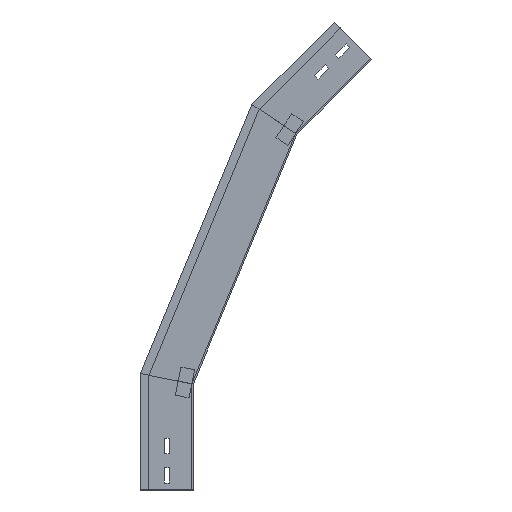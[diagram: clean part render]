
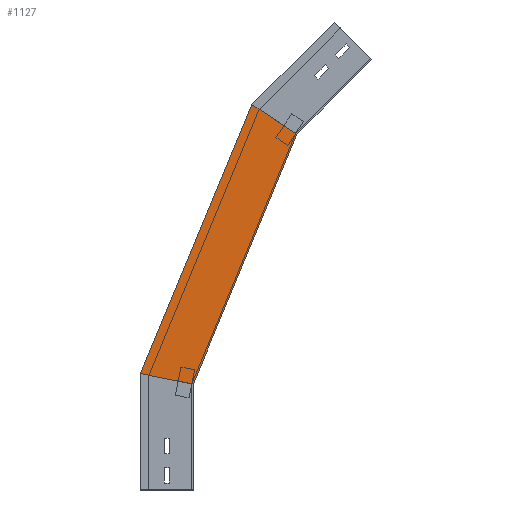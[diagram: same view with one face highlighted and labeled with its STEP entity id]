
A CAD part, left-side view. The second image highlights one B-rep face of the part: STEP entity #1127.
In plain terms, the highlighted planar face has unit normal (-1, 0, 0) as drawn and (1, 0, 0) by its records, which use the part's own axes.
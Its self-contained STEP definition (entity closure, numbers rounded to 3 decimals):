
#69 = LINE ( 'NONE', #95, #1461 ) ;
#95 = CARTESIAN_POINT ( 'NONE',  ( 0., -211.373, 460.544 ) ) ;
#109 = EDGE_CURVE ( 'NONE', #833, #999, #810, .T. ) ;
#128 = CARTESIAN_POINT ( 'NONE',  ( 0., 6.318, 134.746 ) ) ;
#182 = CARTESIAN_POINT ( 'NONE',  ( 0., 75., 164.918 ) ) ;
#209 = CARTESIAN_POINT ( 'NONE',  ( 0., -146.568, 503.846 ) ) ;
#310 = DIRECTION ( 'NONE',  ( 0., -0.831, -0.556 ) ) ;
#329 = EDGE_CURVE ( 'NONE', #1350, #1359, #546, .T. ) ;
#339 = ORIENTED_EDGE ( 'NONE', *, *, #109, .F. ) ;
#348 = ORIENTED_EDGE ( 'NONE', *, *, #329, .T. ) ;
#364 = CARTESIAN_POINT ( 'NONE',  ( 0., -28.701, 144.291 ) ) ;
#469 = ORIENTED_EDGE ( 'NONE', *, *, #1440, .T. ) ;
#492 = FACE_OUTER_BOUND ( 'NONE', #1231, .T. ) ;
#498 = CARTESIAN_POINT ( 'NONE',  ( 0., 0., 150. ) ) ;
#546 = LINE ( 'NONE', #1445, #1195 ) ;
#583 = DIRECTION ( 'NONE',  ( 0., -0.981, -0.195 ) ) ;
#600 = DIRECTION ( 'NONE',  ( 0., -0.383, 0.924 ) ) ;
#638 = AXIS2_PLACEMENT_3D ( 'NONE', #1043, #1500, #1258 ) ;
#810 = LINE ( 'NONE', #128, #1099 ) ;
#818 = LINE ( 'NONE', #364, #876 ) ;
#833 = VERTEX_POINT ( 'NONE', #498 ) ;
#876 = VECTOR ( 'NONE', #583, 1000. ) ;
#964 = DIRECTION ( 'NONE',  ( 0., -0.383, 0.924 ) ) ;
#999 = VERTEX_POINT ( 'NONE', #209 ) ;
#1024 = PLANE ( 'NONE',  #638 ) ;
#1043 = CARTESIAN_POINT ( 'NONE',  ( 0., 6.318, 134.746 ) ) ;
#1078 = ORIENTED_EDGE ( 'NONE', *, *, #1103, .F. ) ;
#1099 = VECTOR ( 'NONE', #600, 1000. ) ;
#1103 = EDGE_CURVE ( 'NONE', #1350, #833, #818, .T. ) ;
#1127 = ADVANCED_FACE ( 'NONE', ( #492 ), #1024, .T. ) ;
#1195 = VECTOR ( 'NONE', #964, 1000. ) ;
#1231 = EDGE_LOOP ( 'NONE', ( #348, #469, #339, #1078 ) ) ;
#1258 = DIRECTION ( 'NONE',  ( 0., 0., -1. ) ) ;
#1350 = VERTEX_POINT ( 'NONE', #182 ) ;
#1359 = VERTEX_POINT ( 'NONE', #1420 ) ;
#1420 = CARTESIAN_POINT ( 'NONE',  ( 0., -82.986, 546.33 ) ) ;
#1440 = EDGE_CURVE ( 'NONE', #1359, #999, #69, .T. ) ;
#1445 = CARTESIAN_POINT ( 'NONE',  ( 0., 75.609, 163.448 ) ) ;
#1461 = VECTOR ( 'NONE', #310, 1000. ) ;
#1500 = DIRECTION ( 'NONE',  ( 1., 0., 0. ) ) ;
